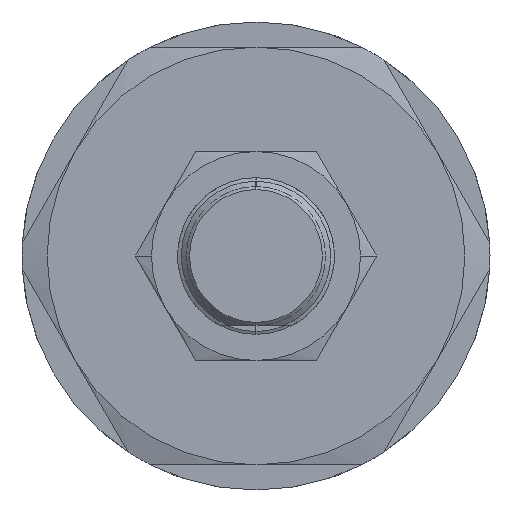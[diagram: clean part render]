
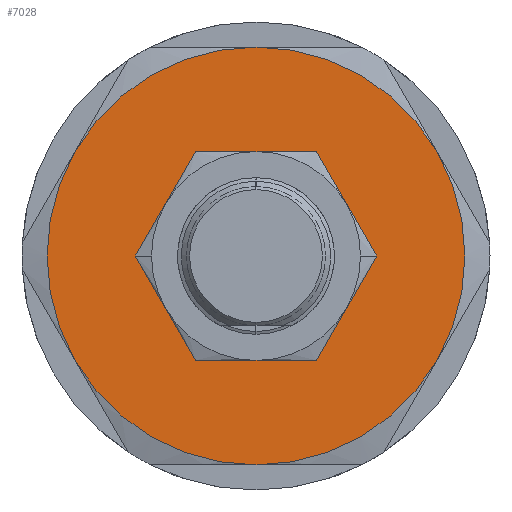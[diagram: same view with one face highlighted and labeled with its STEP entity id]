
A CAD part, left-side view. The second image highlights one B-rep face of the part: STEP entity #7028.
In plain terms, the highlighted planar face has unit normal (-1, 0, 0).
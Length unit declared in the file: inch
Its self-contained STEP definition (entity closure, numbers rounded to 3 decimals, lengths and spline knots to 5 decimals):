
#4952=CARTESIAN_POINT('',(-3.,0.,-0.159));
#4953=VERTEX_POINT('',#4952);
#4960=CARTESIAN_POINT('',(-3.,0.,0.159));
#4961=VERTEX_POINT('',#4960);
#4962=CARTESIAN_POINT('',(-3.,0.,0.));
#4963=DIRECTION('',(-1.0,0.0,0.0));
#4964=DIRECTION('',(0.0,0.0,-1.0));
#4965=AXIS2_PLACEMENT_3D('',#4962,#4963,#4964);
#4966=CIRCLE('',#4965,0.159);
#4967=EDGE_CURVE('',#4953,#4961,#4966,.T.);
#6957=CARTESIAN_POINT('',(-3.,0.,0.));
#6958=DIRECTION('',(-1.0,0.0,0.0));
#6959=DIRECTION('',(0.0,0.0,1.0));
#6960=AXIS2_PLACEMENT_3D('',#6957,#6958,#6959);
#6961=PLANE('',#6960);
#6962=CARTESIAN_POINT('',(-3.,-0.43301,0.25));
#6963=VERTEX_POINT('',#6962);
#6964=CARTESIAN_POINT('',(-3.0,0.,0.5));
#6965=VERTEX_POINT('',#6964);
#6966=CARTESIAN_POINT('',(-3.,0.,0.));
#6967=DIRECTION('',(-1.0,0.0,0.0));
#6968=DIRECTION('',(0.0,0.0,-1.0));
#6969=AXIS2_PLACEMENT_3D('',#6966,#6967,#6968);
#6970=CIRCLE('',#6969,0.5);
#6971=EDGE_CURVE('',#6963,#6965,#6970,.T.);
#6972=ORIENTED_EDGE('',*,*,#6971,.T.);
#6973=CARTESIAN_POINT('',(-3.0,0.43301,0.25));
#6974=VERTEX_POINT('',#6973);
#6975=CARTESIAN_POINT('',(-3.,0.,0.));
#6976=DIRECTION('',(-1.0,0.0,0.0));
#6977=DIRECTION('',(0.0,0.0,-1.0));
#6978=AXIS2_PLACEMENT_3D('',#6975,#6976,#6977);
#6979=CIRCLE('',#6978,0.5);
#6980=EDGE_CURVE('',#6965,#6974,#6979,.T.);
#6981=ORIENTED_EDGE('',*,*,#6980,.T.);
#6982=CARTESIAN_POINT('',(-3.,0.43301,-0.25));
#6983=VERTEX_POINT('',#6982);
#6984=CARTESIAN_POINT('',(-3.,0.,0.));
#6985=DIRECTION('',(-1.0,0.0,0.0));
#6986=DIRECTION('',(0.0,0.0,-1.0));
#6987=AXIS2_PLACEMENT_3D('',#6984,#6985,#6986);
#6988=CIRCLE('',#6987,0.5);
#6989=EDGE_CURVE('',#6974,#6983,#6988,.T.);
#6990=ORIENTED_EDGE('',*,*,#6989,.T.);
#6991=CARTESIAN_POINT('',(-3.0,0.,-0.5));
#6992=VERTEX_POINT('',#6991);
#6993=CARTESIAN_POINT('',(-3.,0.,0.));
#6994=DIRECTION('',(-1.0,0.0,0.0));
#6995=DIRECTION('',(0.0,0.0,-1.0));
#6996=AXIS2_PLACEMENT_3D('',#6993,#6994,#6995);
#6997=CIRCLE('',#6996,0.5);
#6998=EDGE_CURVE('',#6983,#6992,#6997,.T.);
#6999=ORIENTED_EDGE('',*,*,#6998,.T.);
#7000=CARTESIAN_POINT('',(-3.,-0.43301,-0.25));
#7001=VERTEX_POINT('',#7000);
#7002=CARTESIAN_POINT('',(-3.,0.,0.));
#7003=DIRECTION('',(-1.0,0.0,0.0));
#7004=DIRECTION('',(0.0,0.0,-1.0));
#7005=AXIS2_PLACEMENT_3D('',#7002,#7003,#7004);
#7006=CIRCLE('',#7005,0.5);
#7007=EDGE_CURVE('',#6992,#7001,#7006,.T.);
#7008=ORIENTED_EDGE('',*,*,#7007,.T.);
#7009=CARTESIAN_POINT('',(-3.,0.,0.));
#7010=DIRECTION('',(-1.0,0.0,0.0));
#7011=DIRECTION('',(0.0,0.0,-1.0));
#7012=AXIS2_PLACEMENT_3D('',#7009,#7010,#7011);
#7013=CIRCLE('',#7012,0.5);
#7014=EDGE_CURVE('',#7001,#6963,#7013,.T.);
#7015=ORIENTED_EDGE('',*,*,#7014,.T.);
#7016=EDGE_LOOP('',(#6972,#6981,#6990,#6999,#7008,#7015));
#7017=FACE_OUTER_BOUND('',#7016,.T.);
#7018=ORIENTED_EDGE('',*,*,#4967,.F.);
#7019=CARTESIAN_POINT('',(-3.,0.,0.));
#7020=DIRECTION('',(-1.0,0.0,0.0));
#7021=DIRECTION('',(0.0,0.0,-1.0));
#7022=AXIS2_PLACEMENT_3D('',#7019,#7020,#7021);
#7023=CIRCLE('',#7022,0.159);
#7024=EDGE_CURVE('',#4961,#4953,#7023,.T.);
#7025=ORIENTED_EDGE('',*,*,#7024,.F.);
#7026=EDGE_LOOP('',(#7018,#7025));
#7027=FACE_BOUND('',#7026,.T.);
#7028=ADVANCED_FACE('',(#7017,#7027),#6961,.T.);
